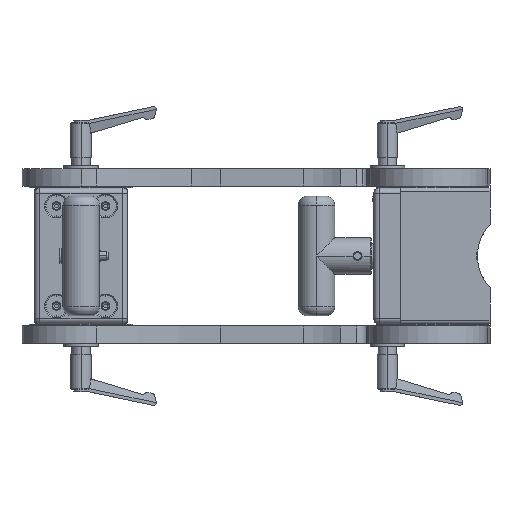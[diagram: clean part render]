
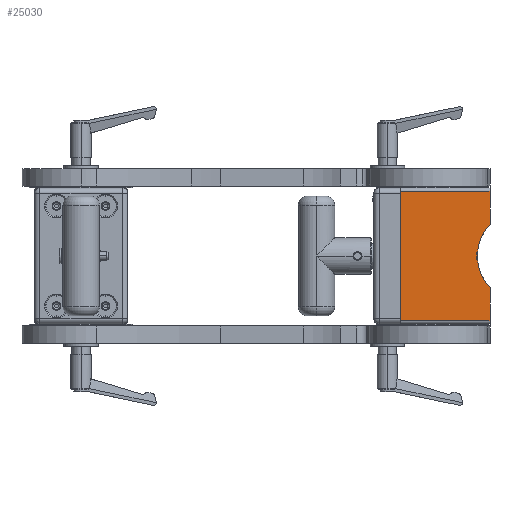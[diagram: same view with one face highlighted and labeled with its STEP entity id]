
A CAD part, left-side view. The second image highlights one B-rep face of the part: STEP entity #25030.
In plain terms, the highlighted planar face has unit normal (-1, 0, 0).
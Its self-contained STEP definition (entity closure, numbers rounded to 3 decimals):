
#173 = LINE ( 'NONE', #14716, #181 ) ;
#181 = VECTOR ( 'NONE', #14717, 1000. ) ;
#196 = VECTOR ( 'NONE', #14752, 1000. ) ;
#204 = LINE ( 'NONE', #14743, #196 ) ;
#206 = LINE ( 'NONE', #14753, #207 ) ;
#207 = VECTOR ( 'NONE', #14754, 1000. ) ;
#4170 = AXIS2_PLACEMENT_3D ( 'NONE', #10580, #10586, #10587 ) ;
#5336 = EDGE_CURVE ( 'NONE', #26011, #25991, #18997, .T. ) ;
#5338 = EDGE_CURVE ( 'NONE', #25991, #25992, #18998, .T. ) ;
#5481 = EDGE_CURVE ( 'NONE', #25994, #25992, #35340, .T. ) ;
#10580 = CARTESIAN_POINT ( 'NONE',  ( -155.005, -106.716, -52.729 ) ) ;
#10581 = PLANE ( 'NONE',  #4170 ) ;
#10586 = DIRECTION ( 'NONE',  ( 1., 0., 0. ) ) ;
#10587 = DIRECTION ( 'NONE',  ( 0., 0., -1. ) ) ;
#12955 = AXIS2_PLACEMENT_3D ( 'NONE', #27378, #27395, #27397 ) ;
#14716 = CARTESIAN_POINT ( 'NONE',  ( -155.005, -39.716, -15.229 ) ) ;
#14717 = DIRECTION ( 'NONE',  ( 0., 0., 1. ) ) ;
#14743 = CARTESIAN_POINT ( 'NONE',  ( -155.005, -88.716, -15.229 ) ) ;
#14752 = DIRECTION ( 'NONE',  ( 0., 0., -1. ) ) ;
#14753 = CARTESIAN_POINT ( 'NONE',  ( -155.005, -106.716, -17.229 ) ) ;
#14754 = DIRECTION ( 'NONE',  ( 0., 1., 0. ) ) ;
#16116 = CARTESIAN_POINT ( 'NONE',  ( -155.005, -106.716, -88.229 ) ) ;
#16117 = DIRECTION ( 'NONE',  ( 0., -1., 0. ) ) ;
#18996 = VECTOR ( 'NONE', #27408, 1000. ) ;
#18997 = CIRCLE ( 'NONE', #12955, 25. ) ;
#18998 = LINE ( 'NONE', #27393, #18996 ) ;
#20580 = EDGE_CURVE ( 'NONE', #25994, #26008, #173, .T. ) ;
#20592 = EDGE_CURVE ( 'NONE', #26009, #26011, #204, .T. ) ;
#20593 = EDGE_CURVE ( 'NONE', #26009, #26008, #206, .T. ) ;
#23386 = ORIENTED_EDGE ( 'NONE', *, *, #20593, .T. ) ;
#23387 = ORIENTED_EDGE ( 'NONE', *, *, #20592, .F. ) ;
#23388 = ORIENTED_EDGE ( 'NONE', *, *, #5336, .F. ) ;
#23389 = ORIENTED_EDGE ( 'NONE', *, *, #5338, .F. ) ;
#23390 = ORIENTED_EDGE ( 'NONE', *, *, #5481, .T. ) ;
#23391 = ORIENTED_EDGE ( 'NONE', *, *, #20580, .F. ) ;
#25030 = ADVANCED_FACE ( 'NONE', ( #25385 ), #10581, .F. ) ;
#25385 = FACE_OUTER_BOUND ( 'NONE', #31172, .T. ) ;
#25991 = VERTEX_POINT ( 'NONE', #33707 ) ;
#25992 = VERTEX_POINT ( 'NONE', #33708 ) ;
#25994 = VERTEX_POINT ( 'NONE', #33710 ) ;
#26008 = VERTEX_POINT ( 'NONE', #33724 ) ;
#26009 = VERTEX_POINT ( 'NONE', #33725 ) ;
#26011 = VERTEX_POINT ( 'NONE', #33727 ) ;
#27378 = CARTESIAN_POINT ( 'NONE',  ( -155.005, -106.716, -52.729 ) ) ;
#27393 = CARTESIAN_POINT ( 'NONE',  ( -155.005, -88.716, -70.078 ) ) ;
#27395 = DIRECTION ( 'NONE',  ( -1., 0., 0. ) ) ;
#27397 = DIRECTION ( 'NONE',  ( 0., 0., -1. ) ) ;
#27408 = DIRECTION ( 'NONE',  ( 0., 0., -1. ) ) ;
#31172 = EDGE_LOOP ( 'NONE', ( #23391, #23390, #23389, #23388, #23387, #23386 ) ) ;
#33707 = CARTESIAN_POINT ( 'NONE',  ( -155.005, -88.716, -70.078 ) ) ;
#33708 = CARTESIAN_POINT ( 'NONE',  ( -155.005, -88.716, -88.229 ) ) ;
#33710 = CARTESIAN_POINT ( 'NONE',  ( -155.005, -39.716, -88.229 ) ) ;
#33724 = CARTESIAN_POINT ( 'NONE',  ( -155.005, -39.716, -17.229 ) ) ;
#33725 = CARTESIAN_POINT ( 'NONE',  ( -155.005, -88.716, -17.229 ) ) ;
#33727 = CARTESIAN_POINT ( 'NONE',  ( -155.005, -88.716, -35.38 ) ) ;
#35340 = LINE ( 'NONE', #16116, #35341 ) ;
#35341 = VECTOR ( 'NONE', #16117, 1000. ) ;
